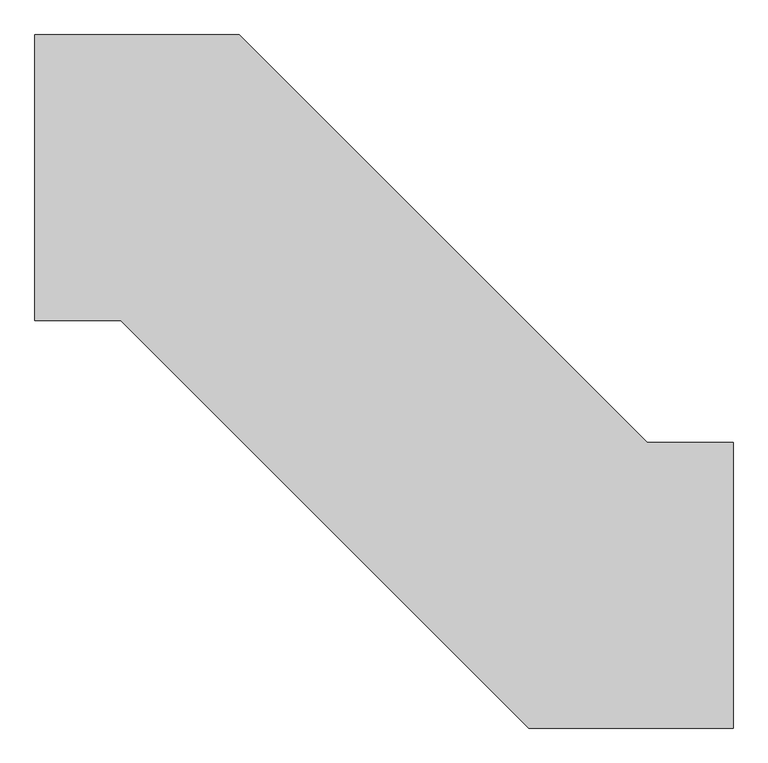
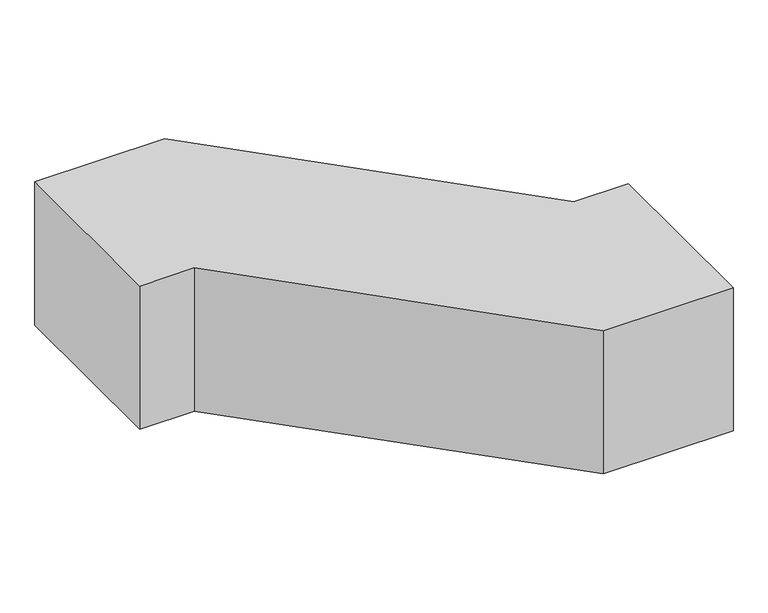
"""IFC4 building model written with IfcOpenShell, lengths in millimetres: duct fitting geometry, 2017_Quiebro_Climaver_Quiebro : Quiebro_Climaver."""

from ifc_helpers import new_model, si_unit, frame, origin, place, context, project, spatial, polyline, outline, extrude, source, transform, mapped, element, save


def duct_fitting_c4823a67(model_context):
    return source(origin(), model_context, "Body", "SweptSolid", [
        extrude(outline(polyline([(-174.6, 300.0), (254.4640687, 300.0), (1110.339132, -555.8750633), (1290.8750633, -555.8750633), (1290.8750633, -1155.8750633), (861.8109946, -1155.8750633), (5.9359313, -300.0), (-174.6, -300.0), (-174.6, 300.0)])), frame((0.0, 0.0, -250.0), z_axis=(0.0, 0.0, 1.0), x_axis=(1.0, 0.0, 0.0)), (0.0, 0.0, 1.0), 500.0),
    ])


if __name__ == "__main__":
    model = new_model("IFC4")
    model_context = context("Model", 3, world=origin())
    ifc_project = project(units=[si_unit("LENGTHUNIT", "METRE", prefix="MILLI")], contexts=[model_context])
    site = spatial("IfcSite", under=ifc_project)
    building = spatial("IfcBuilding", under=site)
    placement = place(None, origin())
    duct_fitting_shape = duct_fitting_c4823a67(model_context)
    element("IfcDuctFitting", 1, ObjectType="2017_Quiebro_Climaver_Quiebro : Quiebro_Climaver", at=placement, inside=building, context=model_context, shape_type="MappedRepresentation", body=[
        mapped(duct_fitting_shape, transform((0.0, 0.0, 0.0), x_axis=(1.0, 0.0, 0.0), y_axis=(0.0, 1.0, 0.0), z_axis=(0.0, 0.0, 1.0))),
    ])
    save(model, "model.ifc")
